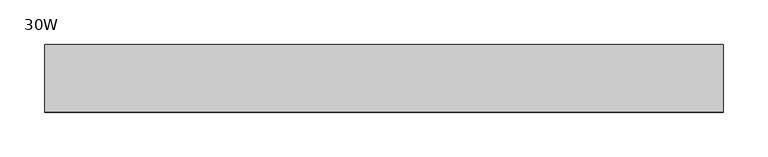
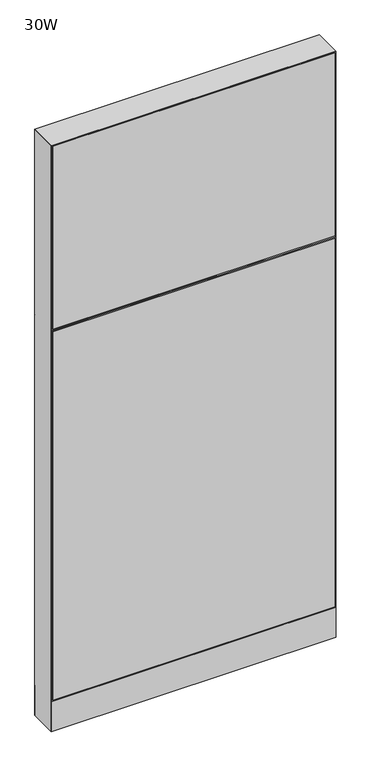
"""IFC4 building model written with IfcOpenShell, lengths in millimetres: furniture geometry, Steelcase - Montage - Frame - 65H - Enhanced Monolithic - Base Cavity : 30W."""

from ifc_helpers import new_model, si_unit, point, frame, frame_2d, origin, origin_with_axes, place, context, project, spatial, polyline, circle_curve, trimmed, segment, composite_curve, outline, extrude, faceted_brep, source, transform, mapped, element, save


def furniture_30w_e37f7533(model_context):
    return source(origin(), model_context, "Body", "SolidModel", [
        faceted_brep([(6.3499917, 31.7526299, 1142.9999997), (6.3499917, 31.7526299, 1130.3000003), (755.6500047, 31.7526299, 1130.3000003), (755.6500047, 31.7526299, 1142.9999997), (-5.4e-06, 38.102627, 1136.6500027), (762.0, 38.1026253, 1136.6500044)], [[[0, 1, 2, 3]], [[4, 0, 3, 5]], [[5, 2, 1, 4]], [[4, 1, 0]], [[3, 2, 5]]]),
        extrude(outline(polyline([(3.175, 31.7500194), (3.175, 38.1000194), (758.825, 38.1000194), (758.825, 31.7500194), (3.175, 31.7500194)])), frame((0.0, 0.0, 1139.825), z_axis=(0.0, 0.0, 1.0), x_axis=(1.0, 0.0, 0.0)), (0.0, 0.0, 1.0), 517.525),
        extrude(outline(polyline([(3.175, 31.7500194), (3.175, 38.1000194), (758.825, 38.1000194), (758.825, 31.7500194), (3.175, 31.7500194)])), frame((0.0, 0.0, 92.075), z_axis=(0.0, 0.0, 1.0), x_axis=(1.0, 0.0, 0.0)), (0.0, 0.0, 1.0), 1041.4),
        faceted_brep([(6.3499917, -31.7526299, 1142.9999997), (755.6500047, -31.7526299, 1142.9999997), (755.6500047, -31.7526299, 1130.3000003), (6.3499917, -31.7526299, 1130.3000003), (0.0, -38.1026297, 1136.65), (762.0, -38.1026297, 1136.65)], [[[0, 1, 2, 3]], [[4, 5, 1, 0]], [[5, 4, 3, 2]], [[4, 0, 3]], [[1, 5, 2]]]),
        extrude(outline(polyline([(3.175, -31.7500194), (758.825, -31.7500194), (758.825, -38.1000194), (3.175, -38.1000194), (3.175, -31.7500194)])), frame((0.0, 0.0, 1139.825), z_axis=(0.0, 0.0, 1.0), x_axis=(1.0, 0.0, 0.0)), (0.0, 0.0, 1.0), 517.525),
        extrude(outline(polyline([(3.175, -31.7500194), (758.825, -31.7500194), (758.825, -38.1000194), (3.175, -38.1000194), (3.175, -31.7500194)])), frame((0.0, 0.0, 92.075), z_axis=(0.0, 0.0, 1.0), x_axis=(1.0, 0.0, 0.0)), (0.0, 0.0, 1.0), 1041.4),
        extrude(outline(polyline([(6.350003, -31.7499985), (755.649997, -31.7499985), (762.0, -38.1000015), (0.0, -38.1000015), (6.350003, -31.7499985)])), frame((0.0, 0.0, 4.064), z_axis=(0.0, 0.0, 1.0), x_axis=(1.0, 0.0, 0.0)), (0.0, 0.0, 1.0), 84.835997),
        extrude(outline(polyline([(6.3500002, 31.7500017), (0.0, 38.1000015), (762.0, 38.1000015), (755.6500002, 31.7500017), (6.3500002, 31.7500017)])), frame((0.0, 0.0, 4.064), z_axis=(0.0, 0.0, 1.0), x_axis=(1.0, 0.0, 0.0)), (0.0, 0.0, 1.0), 84.835997),
        faceted_brep([(762.0, -38.1000015, 1660.525), (0.0, -38.1000015, 1660.525), (6.3500484, -31.749953, 1654.1749516), (755.6499516, -31.749953, 1654.1749516), (6.3500484, 31.749953, 1654.1749516), (755.6499516, 31.749953, 1654.1749516), (0.0, 38.1000015, 1660.525), (762.0, 38.1000015, 1660.525)], [[[0, 1, 2, 3]], [[3, 2, 4, 5]], [[6, 7, 5, 4]], [[1, 0, 7, 6]], [[2, 1, 6, 4]], [[0, 3, 5, 7]]]),
        extrude(outline(composite_curve([segment(trimmed(circle_curve(frame_2d((44.45, 0.0)), 15.24), [point((29.21, 0.0))], [point((59.69, 0.0))], False, "CARTESIAN"), True, "CONTINUOUS"), segment(trimmed(circle_curve(frame_2d((44.45, 0.0)), 15.24), [point((59.69, 0.0))], [point((29.21, 0.0))], False, "CARTESIAN"), True, "CONTINUOUS")], self_intersect=False)), origin_with_axes(), (0.0, 0.0, 1.0), 4.064),
        extrude(outline(composite_curve([segment(trimmed(circle_curve(frame_2d((717.55, 0.0)), 15.24), [point((702.31, 0.0))], [point((732.79, 0.0))], False, "CARTESIAN"), True, "CONTINUOUS"), segment(trimmed(circle_curve(frame_2d((717.55, 0.0)), 15.24), [point((732.79, 0.0))], [point((702.31, 0.0))], False, "CARTESIAN"), True, "CONTINUOUS")], self_intersect=False)), origin_with_axes(), (0.0, 0.0, 1.0), 4.064),
        faceted_brep([(762.0, -38.1000106, 4.064), (762.0, 38.1000015, 4.064), (762.0, 38.1000015, 1660.525), (762.0, -38.1000106, 1660.5249637), (0.0, 38.1000015, 4.064), (0.0, -38.1000015, 4.064), (0.0, -38.1000015, 1660.525), (0.0, 38.1000015, 1660.525), (755.6499879, 31.7500017, 606.425), (6.35, 31.7500017, 606.425), (6.3499998, 31.7500017, 619.125), (755.6499879, 31.7500017, 619.125), (6.35, -31.7499985, 619.125), (755.6499879, -31.7499985, 619.125), (6.350003, -31.7499985, 606.425), (755.6499879, -31.7499985, 606.425), (755.6499879, 31.7500017, 1130.3), (6.35, 31.7500017, 1130.3), (6.3499998, 31.7500017, 1143.0), (755.6499879, 31.7500017, 1143.0), (6.35, -31.7499985, 1143.0), (755.6499879, -31.7499985, 1143.0), (6.350003, -31.7499985, 1130.3), (755.6499879, -31.7499985, 1130.3), (6.35, 31.7500015, 4.064), (6.35, -31.7500015, 4.064), (755.6499879, 31.7499894, 4.064), (755.6499879, -31.7499985, 4.064), (6.35, 31.7500015, 1654.175), (6.35, -31.7500015, 1654.175), (755.6499879, -31.7499985, 1654.1749516), (755.6499879, 31.7499895, 1654.1749516)], [[[0, 1, 2, 3]], [[4, 5, 6, 7]], [[8, 9, 10, 11]], [[11, 10, 12, 13]], [[13, 12, 14, 15]], [[9, 8, 15, 14]], [[16, 17, 18, 19]], [[19, 18, 20, 21]], [[21, 20, 22, 23]], [[17, 16, 23, 22]], [[24, 25, 5, 4]], [[26, 1, 0, 27]], [[24, 4, 7, 28, 18, 17, 10, 9]], [[5, 25, 14, 12, 22, 20, 29, 6]], [[20, 18, 28, 29]], [[25, 24, 9, 14]], [[10, 17, 22, 12]], [[19, 21, 30, 31]], [[26, 27, 15, 8]], [[16, 11, 13, 23]], [[27, 0, 3, 30, 21, 23, 13, 15]], [[1, 26, 8, 11, 16, 19, 31, 2]], [[7, 6, 29, 28]], [[3, 2, 31, 30]]]),
    ])


if __name__ == "__main__":
    model = new_model("IFC4")
    model_context = context("Model", 3, world=origin())
    ifc_project = project(units=[si_unit("LENGTHUNIT", "METRE", prefix="MILLI")], contexts=[model_context])
    site = spatial("IfcSite", under=ifc_project)
    building = spatial("IfcBuilding", under=site)
    placement = place(None, origin())
    furniture_30w_shape = furniture_30w_e37f7533(model_context)
    element("IfcFurniture", 1, ObjectType="Steelcase - Montage - Frame - 65H - Enhanced Monolithic - Base Cavity : 30W", at=placement, inside=building, context=model_context, shape_type="MappedRepresentation", body=[
        mapped(furniture_30w_shape, transform((0.0, 0.0, 0.0), x_axis=(1.0, 0.0, 0.0), y_axis=(0.0, 1.0, 0.0), z_axis=(0.0, 0.0, 1.0))),
    ])
    save(model, "model.ifc")
